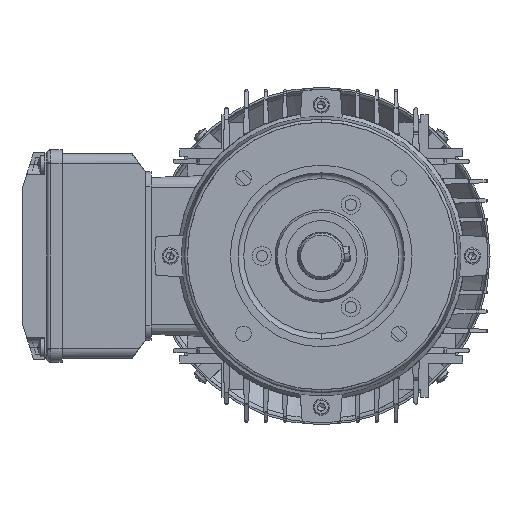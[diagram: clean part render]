
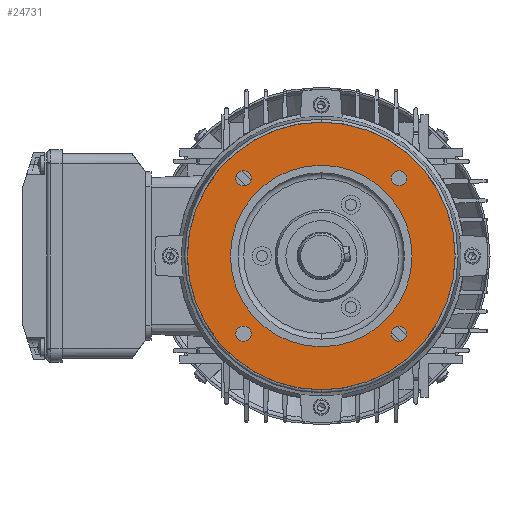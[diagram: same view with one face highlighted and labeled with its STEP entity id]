
A CAD part, left-side view. The second image highlights one B-rep face of the part: STEP entity #24731.
In plain terms, the highlighted planar face has unit normal (-1, 0, 0).
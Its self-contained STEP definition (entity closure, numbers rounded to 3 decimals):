
#230 = AXIS2_PLACEMENT_3D ( 'NONE', #15121, #101244, #22480 ) ;
#471 = CIRCLE ( 'NONE', #94021, 4. ) ;
#2350 = EDGE_LOOP ( 'NONE', ( #26025, #22897 ) ) ;
#4371 = DIRECTION ( 'NONE',  ( 1., 0., 0. ) ) ;
#4955 = DIRECTION ( 'NONE',  ( -1., 0., 0. ) ) ;
#5031 = AXIS2_PLACEMENT_3D ( 'NONE', #46023, #74514, #64012 ) ;
#6017 = DIRECTION ( 'NONE',  ( 0., 0., -1. ) ) ;
#6088 = CARTESIAN_POINT ( 'NONE',  ( 3., -40.659, 44.659 ) ) ;
#6120 = FACE_BOUND ( 'NONE', #2350, .T. ) ;
#10824 = ORIENTED_EDGE ( 'NONE', *, *, #72667, .T. ) ;
#11009 = VERTEX_POINT ( 'NONE', #76081 ) ;
#12089 = DIRECTION ( 'NONE',  ( -1., 0., 0. ) ) ;
#14609 = VERTEX_POINT ( 'NONE', #15200 ) ;
#15121 = CARTESIAN_POINT ( 'NONE',  ( 3., 47.5, 0. ) ) ;
#15200 = CARTESIAN_POINT ( 'NONE',  ( 3., 40.659, -44.659 ) ) ;
#15772 = DIRECTION ( 'NONE',  ( 0., 0., 1. ) ) ;
#16546 = CIRCLE ( 'NONE', #59721, 70. ) ;
#16751 = AXIS2_PLACEMENT_3D ( 'NONE', #83055, #65072, #49840 ) ;
#17309 = AXIS2_PLACEMENT_3D ( 'NONE', #81555, #4955, #91125 ) ;
#19318 = ORIENTED_EDGE ( 'NONE', *, *, #69673, .T. ) ;
#20584 = CIRCLE ( 'NONE', #99646, 47.5 ) ;
#21103 = DIRECTION ( 'NONE',  ( 0., 0., 1. ) ) ;
#22480 = DIRECTION ( 'NONE',  ( 0., 0., -1. ) ) ;
#22897 = ORIENTED_EDGE ( 'NONE', *, *, #51422, .T. ) ;
#23466 = VERTEX_POINT ( 'NONE', #72777 ) ;
#24245 = CARTESIAN_POINT ( 'NONE',  ( 3., 0., 0. ) ) ;
#24731 = ADVANCED_FACE ( 'NONE', ( #6120, #32552, #74807, #110264, #109147, #66909 ), #66346, .F. ) ;
#24805 = DIRECTION ( 'NONE',  ( 1., 0., 0. ) ) ;
#25065 = VERTEX_POINT ( 'NONE', #108872 ) ;
#25108 = DIRECTION ( 'NONE',  ( 0., 0., -1. ) ) ;
#25837 = CARTESIAN_POINT ( 'NONE',  ( 3., 40.659, -40.659 ) ) ;
#26025 = ORIENTED_EDGE ( 'NONE', *, *, #32329, .T. ) ;
#26225 = EDGE_CURVE ( 'NONE', #42149, #23466, #471, .T. ) ;
#28883 = EDGE_LOOP ( 'NONE', ( #42991, #98097 ) ) ;
#30019 = CARTESIAN_POINT ( 'NONE',  ( 3., 40.659, -40.659 ) ) ;
#32329 = EDGE_CURVE ( 'NONE', #68978, #108886, #65569, .T. ) ;
#32552 = FACE_BOUND ( 'NONE', #28883, .T. ) ;
#33270 = CARTESIAN_POINT ( 'NONE',  ( 3., -40.659, 40.659 ) ) ;
#33949 = EDGE_CURVE ( 'NONE', #105654, #51042, #38796, .T. ) ;
#38489 = DIRECTION ( 'NONE',  ( 0., 0., -1. ) ) ;
#38758 = ORIENTED_EDGE ( 'NONE', *, *, #75109, .F. ) ;
#38796 = CIRCLE ( 'NONE', #101727, 4. ) ;
#39068 = VERTEX_POINT ( 'NONE', #77397 ) ;
#41033 = VERTEX_POINT ( 'NONE', #79475 ) ;
#41646 = DIRECTION ( 'NONE',  ( 0., 0., -1. ) ) ;
#42149 = VERTEX_POINT ( 'NONE', #93614 ) ;
#42944 = CIRCLE ( 'NONE', #53770, 4. ) ;
#42991 = ORIENTED_EDGE ( 'NONE', *, *, #93015, .T. ) ;
#43861 = AXIS2_PLACEMENT_3D ( 'NONE', #25837, #76527, #41646 ) ;
#46023 = CARTESIAN_POINT ( 'NONE',  ( 3., -40.659, -40.659 ) ) ;
#47278 = EDGE_LOOP ( 'NONE', ( #97360, #38758 ) ) ;
#47327 = VERTEX_POINT ( 'NONE', #61644 ) ;
#48926 = ORIENTED_EDGE ( 'NONE', *, *, #109730, .T. ) ;
#49840 = DIRECTION ( 'NONE',  ( 0., 0., -1. ) ) ;
#51042 = VERTEX_POINT ( 'NONE', #102766 ) ;
#51422 = EDGE_CURVE ( 'NONE', #108886, #68978, #42944, .T. ) ;
#51965 = AXIS2_PLACEMENT_3D ( 'NONE', #78683, #12089, #21103 ) ;
#53770 = AXIS2_PLACEMENT_3D ( 'NONE', #33270, #24805, #100821 ) ;
#55101 = CIRCLE ( 'NONE', #17309, 47.5 ) ;
#55933 = DIRECTION ( 'NONE',  ( 1., 0., 0. ) ) ;
#57144 = DIRECTION ( 'NONE',  ( 0., 0., -1. ) ) ;
#57745 = CARTESIAN_POINT ( 'NONE',  ( 3., -40.659, -36.659 ) ) ;
#58225 = CIRCLE ( 'NONE', #43861, 4. ) ;
#58345 = AXIS2_PLACEMENT_3D ( 'NONE', #108495, #4371, #6017 ) ;
#59112 = EDGE_CURVE ( 'NONE', #39068, #11009, #20584, .T. ) ;
#59721 = AXIS2_PLACEMENT_3D ( 'NONE', #24245, #109252, #15772 ) ;
#60569 = DIRECTION ( 'NONE',  ( 1., 0., 0. ) ) ;
#61023 = EDGE_CURVE ( 'NONE', #47327, #14609, #72721, .T. ) ;
#61644 = CARTESIAN_POINT ( 'NONE',  ( 3., 40.659, -36.659 ) ) ;
#64012 = DIRECTION ( 'NONE',  ( 0., 0., -1. ) ) ;
#65072 = DIRECTION ( 'NONE',  ( 1., 0., 0. ) ) ;
#65569 = CIRCLE ( 'NONE', #58345, 4. ) ;
#66346 = PLANE ( 'NONE',  #230 ) ;
#66909 = FACE_OUTER_BOUND ( 'NONE', #89698, .T. ) ;
#67963 = CIRCLE ( 'NONE', #5031, 4. ) ;
#68978 = VERTEX_POINT ( 'NONE', #81262 ) ;
#69673 = EDGE_CURVE ( 'NONE', #23466, #42149, #97701, .T. ) ;
#72308 = ORIENTED_EDGE ( 'NONE', *, *, #81286, .T. ) ;
#72667 = EDGE_CURVE ( 'NONE', #14609, #47327, #58225, .T. ) ;
#72721 = CIRCLE ( 'NONE', #108712, 4. ) ;
#72777 = CARTESIAN_POINT ( 'NONE',  ( 3., 40.659, 44.659 ) ) ;
#74514 = DIRECTION ( 'NONE',  ( 1., 0., 0. ) ) ;
#74807 = FACE_BOUND ( 'NONE', #81925, .T. ) ;
#75109 = EDGE_CURVE ( 'NONE', #11009, #39068, #55101, .T. ) ;
#76081 = CARTESIAN_POINT ( 'NONE',  ( 3., 0., -47.5 ) ) ;
#76527 = DIRECTION ( 'NONE',  ( 1., 0., 0. ) ) ;
#77397 = CARTESIAN_POINT ( 'NONE',  ( 3., 0., 47.5 ) ) ;
#78683 = CARTESIAN_POINT ( 'NONE',  ( 3., 0., 0. ) ) ;
#79475 = CARTESIAN_POINT ( 'NONE',  ( 3., 0., -70. ) ) ;
#81262 = CARTESIAN_POINT ( 'NONE',  ( 3., -40.659, 36.659 ) ) ;
#81286 = EDGE_CURVE ( 'NONE', #41033, #25065, #84368, .T. ) ;
#81555 = CARTESIAN_POINT ( 'NONE',  ( 3., 0., 0. ) ) ;
#81925 = EDGE_LOOP ( 'NONE', ( #10824, #82733 ) ) ;
#82609 = DIRECTION ( 'NONE',  ( -1., 0., 0. ) ) ;
#82733 = ORIENTED_EDGE ( 'NONE', *, *, #61023, .T. ) ;
#83000 = ORIENTED_EDGE ( 'NONE', *, *, #26225, .T. ) ;
#83055 = CARTESIAN_POINT ( 'NONE',  ( 3., 40.659, 40.659 ) ) ;
#84368 = CIRCLE ( 'NONE', #51965, 70. ) ;
#89180 = EDGE_LOOP ( 'NONE', ( #83000, #19318 ) ) ;
#89698 = EDGE_LOOP ( 'NONE', ( #48926, #72308 ) ) ;
#91125 = DIRECTION ( 'NONE',  ( 0., 0., 1. ) ) ;
#93015 = EDGE_CURVE ( 'NONE', #51042, #105654, #67963, .T. ) ;
#93614 = CARTESIAN_POINT ( 'NONE',  ( 3., 40.659, 36.659 ) ) ;
#94021 = AXIS2_PLACEMENT_3D ( 'NONE', #102226, #60569, #25108 ) ;
#97360 = ORIENTED_EDGE ( 'NONE', *, *, #59112, .F. ) ;
#97701 = CIRCLE ( 'NONE', #16751, 4. ) ;
#98097 = ORIENTED_EDGE ( 'NONE', *, *, #33949, .T. ) ;
#99646 = AXIS2_PLACEMENT_3D ( 'NONE', #101732, #82609, #109078 ) ;
#99921 = CARTESIAN_POINT ( 'NONE',  ( 3., -40.659, -40.659 ) ) ;
#100821 = DIRECTION ( 'NONE',  ( 0., 0., -1. ) ) ;
#101244 = DIRECTION ( 'NONE',  ( 1., 0., 0. ) ) ;
#101727 = AXIS2_PLACEMENT_3D ( 'NONE', #99921, #106733, #57144 ) ;
#101732 = CARTESIAN_POINT ( 'NONE',  ( 3., 0., 0. ) ) ;
#102226 = CARTESIAN_POINT ( 'NONE',  ( 3., 40.659, 40.659 ) ) ;
#102766 = CARTESIAN_POINT ( 'NONE',  ( 3., -40.659, -44.659 ) ) ;
#105654 = VERTEX_POINT ( 'NONE', #57745 ) ;
#106733 = DIRECTION ( 'NONE',  ( 1., 0., 0. ) ) ;
#108495 = CARTESIAN_POINT ( 'NONE',  ( 3., -40.659, 40.659 ) ) ;
#108712 = AXIS2_PLACEMENT_3D ( 'NONE', #30019, #55933, #38489 ) ;
#108872 = CARTESIAN_POINT ( 'NONE',  ( 3., 0., 70. ) ) ;
#108886 = VERTEX_POINT ( 'NONE', #6088 ) ;
#109078 = DIRECTION ( 'NONE',  ( 0., 0., 1. ) ) ;
#109147 = FACE_BOUND ( 'NONE', #47278, .T. ) ;
#109252 = DIRECTION ( 'NONE',  ( -1., 0., 0. ) ) ;
#109730 = EDGE_CURVE ( 'NONE', #25065, #41033, #16546, .T. ) ;
#110264 = FACE_BOUND ( 'NONE', #89180, .T. ) ;
